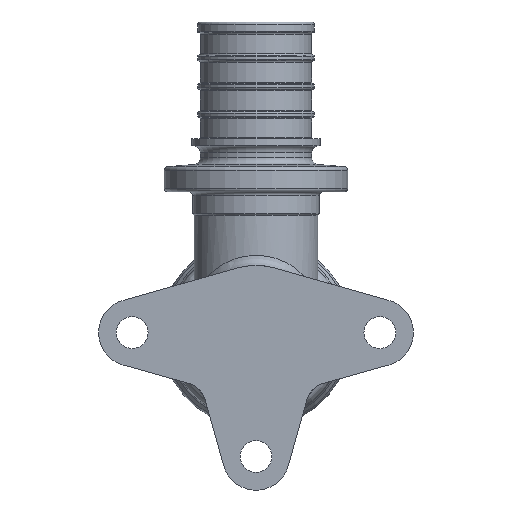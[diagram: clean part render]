
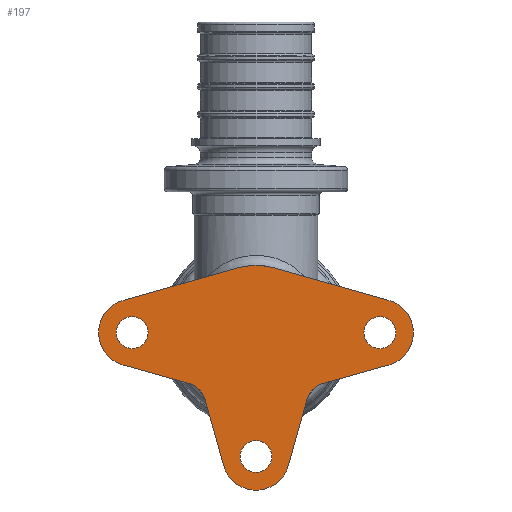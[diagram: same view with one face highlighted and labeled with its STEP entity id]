
A CAD part, front view. The second image highlights one B-rep face of the part: STEP entity #197.
In plain terms, the highlighted planar face has unit normal (0, -1, 0).
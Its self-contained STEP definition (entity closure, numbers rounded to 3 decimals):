
#197=ADVANCED_FACE('',(#1947,#1949,#1951,#1953),#1955,.F.);
#1947=FACE_BOUND('',#1948,.T.);
#1948=EDGE_LOOP('',(#4390,#4391,#4392,#4393,#4394,#4395,#4396,#4397,#4398,#4399,
#4400,#4401));
#1949=FACE_BOUND('',#1950,.T.);
#1950=EDGE_LOOP('',(#4402));
#1951=FACE_BOUND('',#1952,.T.);
#1952=EDGE_LOOP('',(#4403));
#1953=FACE_BOUND('',#1954,.T.);
#1954=EDGE_LOOP('',(#4404));
#1955=PLANE('',#1956);
#1956=AXIS2_PLACEMENT_3D('',#1957,#1958,#1959);
#1957=CARTESIAN_POINT('',(0.,0.,0.));
#1958=DIRECTION('',(0.,1.,0.));
#1959=DIRECTION('',(-1.,0.,0.));
#4390=ORIENTED_EDGE('',*,*,#5704,.F.);
#4391=ORIENTED_EDGE('',*,*,#5703,.F.);
#4392=ORIENTED_EDGE('',*,*,#5700,.F.);
#4393=ORIENTED_EDGE('',*,*,#5698,.F.);
#4394=ORIENTED_EDGE('',*,*,#5696,.F.);
#4395=ORIENTED_EDGE('',*,*,#5695,.F.);
#4396=ORIENTED_EDGE('',*,*,#5692,.F.);
#4397=ORIENTED_EDGE('',*,*,#5690,.F.);
#4398=ORIENTED_EDGE('',*,*,#5688,.F.);
#4399=ORIENTED_EDGE('',*,*,#5710,.F.);
#4400=ORIENTED_EDGE('',*,*,#5708,.F.);
#4401=ORIENTED_EDGE('',*,*,#5706,.F.);
#4402=ORIENTED_EDGE('',*,*,#5830,.T.);
#4403=ORIENTED_EDGE('',*,*,#5831,.T.);
#4404=ORIENTED_EDGE('',*,*,#5832,.T.);
#5688=EDGE_CURVE('',#6782,#6784,#6785,.T.);
#5690=EDGE_CURVE('',#6784,#6787,#6788,.T.);
#5692=EDGE_CURVE('',#6787,#6790,#6791,.T.);
#5695=EDGE_CURVE('',#6790,#6793,#6795,.T.);
#5696=EDGE_CURVE('',#6793,#6796,#6797,.F.);
#5698=EDGE_CURVE('',#6796,#6799,#6800,.T.);
#5700=EDGE_CURVE('',#6799,#6802,#6803,.T.);
#5703=EDGE_CURVE('',#6802,#6805,#6807,.T.);
#5704=EDGE_CURVE('',#6805,#6808,#6809,.F.);
#5706=EDGE_CURVE('',#6808,#6811,#6812,.T.);
#5708=EDGE_CURVE('',#6811,#6814,#6815,.T.);
#5710=EDGE_CURVE('',#6814,#6782,#6817,.T.);
#5830=EDGE_CURVE('',#7049,#7049,#7050,.T.);
#5831=EDGE_CURVE('',#7051,#7051,#7052,.T.);
#5832=EDGE_CURVE('',#7053,#7053,#7054,.T.);
#6782=VERTEX_POINT('',#9240);
#6784=VERTEX_POINT('',#9244);
#6785=CIRCLE('',#9245,9.5);
#6787=VERTEX_POINT('',#9252);
#6788=LINE('',#9253,#9254);
#6790=VERTEX_POINT('',#9259);
#6791=CIRCLE('',#9260,4.75);
#6793=VERTEX_POINT('',#9267);
#6795=LINE('',#9271,#9272);
#6796=VERTEX_POINT('',#9274);
#6797=CIRCLE('',#9275,3.);
#6799=VERTEX_POINT('',#9282);
#6800=LINE('',#9283,#9284);
#6802=VERTEX_POINT('',#9289);
#6803=CIRCLE('',#9290,4.75);
#6805=VERTEX_POINT('',#9297);
#6807=LINE('',#9301,#9302);
#6808=VERTEX_POINT('',#9304);
#6809=CIRCLE('',#9305,3.);
#6811=VERTEX_POINT('',#9312);
#6812=LINE('',#9313,#9314);
#6814=VERTEX_POINT('',#9319);
#6815=CIRCLE('',#9320,4.75);
#6817=LINE('',#9327,#9328);
#7049=VERTEX_POINT('',#9981);
#7050=CIRCLE('',#9982,2.25);
#7051=VERTEX_POINT('',#9986);
#7052=CIRCLE('',#9987,2.25);
#7053=VERTEX_POINT('',#9991);
#7054=CIRCLE('',#9992,2.25);
#9240=CARTESIAN_POINT('',(-2.579,0.,9.143));
#9244=CARTESIAN_POINT('',(2.579,0.,9.143));
#9245=AXIS2_PLACEMENT_3D('',#9246,#9247,#9248);
#9246=CARTESIAN_POINT('',(0.,0.,0.));
#9247=DIRECTION('',(0.,1.,0.));
#9248=DIRECTION('',(-0.271,0.,0.962));
#9252=CARTESIAN_POINT('',(18.789,0.,4.572));
#9253=CARTESIAN_POINT('',(2.579,0.,9.143));
#9254=VECTOR('',#9255,1.);
#9255=DIRECTION('',(0.962,0.,-0.271));
#9259=CARTESIAN_POINT('',(18.789,0.,-4.572));
#9260=AXIS2_PLACEMENT_3D('',#9261,#9262,#9263);
#9261=CARTESIAN_POINT('',(17.5,0.,0.));
#9262=DIRECTION('',(0.,1.,0.));
#9263=DIRECTION('',(0.271,0.,0.962));
#9267=CARTESIAN_POINT('',(9.316,0.,-7.243));
#9271=CARTESIAN_POINT('',(18.789,0.,-4.572));
#9272=VECTOR('',#9273,1.);
#9273=DIRECTION('',(-0.962,0.,-0.271));
#9274=CARTESIAN_POINT('',(7.243,0.,-9.316));
#9275=AXIS2_PLACEMENT_3D('',#9276,#9277,#9278);
#9276=CARTESIAN_POINT('',(10.131,0.,-10.131));
#9277=DIRECTION('',(0.,1.,0.));
#9278=DIRECTION('',(-0.962,0.,0.271));
#9282=CARTESIAN_POINT('',(4.572,0.,-18.789));
#9283=CARTESIAN_POINT('',(7.243,0.,-9.316));
#9284=VECTOR('',#9285,1.);
#9285=DIRECTION('',(-0.271,0.,-0.962));
#9289=CARTESIAN_POINT('',(-4.572,0.,-18.789));
#9290=AXIS2_PLACEMENT_3D('',#9291,#9292,#9293);
#9291=CARTESIAN_POINT('',(0.,0.,-17.5));
#9292=DIRECTION('',(0.,1.,0.));
#9293=DIRECTION('',(0.962,0.,-0.271));
#9297=CARTESIAN_POINT('',(-7.243,0.,-9.316));
#9301=CARTESIAN_POINT('',(-4.572,0.,-18.789));
#9302=VECTOR('',#9303,1.);
#9303=DIRECTION('',(-0.271,0.,0.962));
#9304=CARTESIAN_POINT('',(-9.316,0.,-7.243));
#9305=AXIS2_PLACEMENT_3D('',#9306,#9307,#9308);
#9306=CARTESIAN_POINT('',(-10.131,0.,-10.131));
#9307=DIRECTION('',(0.,1.,0.));
#9308=DIRECTION('',(0.271,0.,0.962));
#9312=CARTESIAN_POINT('',(-18.789,0.,-4.572));
#9313=CARTESIAN_POINT('',(-9.316,0.,-7.243));
#9314=VECTOR('',#9315,1.);
#9315=DIRECTION('',(-0.962,0.,0.271));
#9319=CARTESIAN_POINT('',(-18.789,0.,4.572));
#9320=AXIS2_PLACEMENT_3D('',#9321,#9322,#9323);
#9321=CARTESIAN_POINT('',(-17.5,0.,0.));
#9322=DIRECTION('',(0.,1.,0.));
#9323=DIRECTION('',(-0.271,0.,-0.962));
#9327=CARTESIAN_POINT('',(-18.789,0.,4.572));
#9328=VECTOR('',#9329,1.);
#9329=DIRECTION('',(0.962,0.,0.271));
#9981=CARTESIAN_POINT('',(17.5,0.,2.25));
#9982=AXIS2_PLACEMENT_3D('',#9983,#9984,#9985);
#9983=CARTESIAN_POINT('',(17.5,0.,0.));
#9984=DIRECTION('',(0.,1.,0.));
#9985=DIRECTION('',(0.,0.,1.));
#9986=CARTESIAN_POINT('',(2.25,0.,-17.5));
#9987=AXIS2_PLACEMENT_3D('',#9988,#9989,#9990);
#9988=CARTESIAN_POINT('',(0.,0.,-17.5));
#9989=DIRECTION('',(0.,1.,0.));
#9990=DIRECTION('',(1.,0.,0.));
#9991=CARTESIAN_POINT('',(-17.5,0.,-2.25));
#9992=AXIS2_PLACEMENT_3D('',#9993,#9994,#9995);
#9993=CARTESIAN_POINT('',(-17.5,0.,0.));
#9994=DIRECTION('',(0.,1.,0.));
#9995=DIRECTION('',(0.,0.,-1.));
